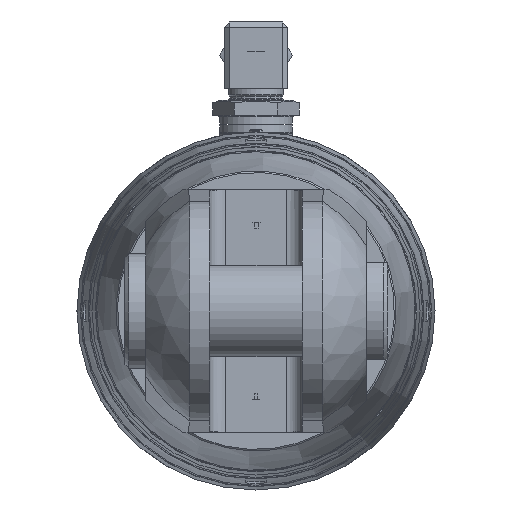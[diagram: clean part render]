
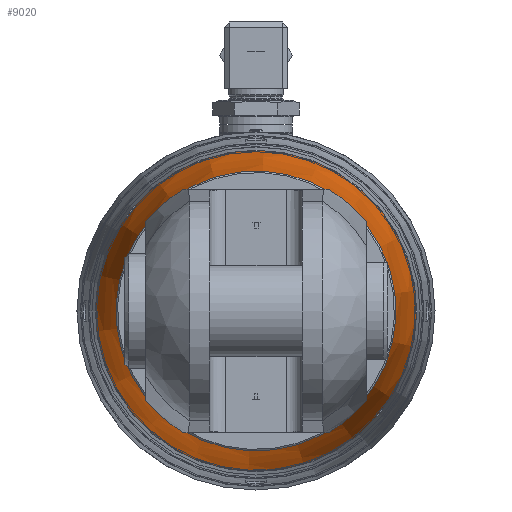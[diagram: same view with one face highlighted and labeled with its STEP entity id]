
A CAD part, left-side view. The second image highlights one B-rep face of the part: STEP entity #9020.
In plain terms, the highlighted conical face has half-angle 10 degrees and reference radius 57.22 mm.
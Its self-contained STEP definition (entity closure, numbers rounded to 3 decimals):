
#110=CONICAL_SURFACE('',#9855,57.22,0.175);
#977=LINE('',#15907,#1559);
#1559=VECTOR('',#11839,57.22);
#2673=FACE_OUTER_BOUND('',#3209,.T.);
#3209=EDGE_LOOP('',(#7721,#7722,#7723,#7724,#7725,#7726));
#3688=CIRCLE('',#9853,61.101);
#3689=CIRCLE('',#9854,61.101);
#3690=CIRCLE('',#9856,53.34);
#3691=CIRCLE('',#9857,53.34);
#4451=VERTEX_POINT('',#15897);
#4452=VERTEX_POINT('',#15898);
#4453=VERTEX_POINT('',#15903);
#4454=VERTEX_POINT('',#15904);
#5589=EDGE_CURVE('',#4451,#4452,#3688,.T.);
#5590=EDGE_CURVE('',#4452,#4451,#3689,.T.);
#5592=EDGE_CURVE('',#4453,#4454,#3690,.T.);
#5593=EDGE_CURVE('',#4454,#4453,#3691,.T.);
#5594=EDGE_CURVE('',#4454,#4452,#977,.T.);
#7721=ORIENTED_EDGE('',*,*,#5592,.F.);
#7722=ORIENTED_EDGE('',*,*,#5593,.F.);
#7723=ORIENTED_EDGE('',*,*,#5594,.T.);
#7724=ORIENTED_EDGE('',*,*,#5589,.F.);
#7725=ORIENTED_EDGE('',*,*,#5590,.F.);
#7726=ORIENTED_EDGE('',*,*,#5594,.F.);
#9020=ADVANCED_FACE('',(#2673),#110,.T.);
#9853=AXIS2_PLACEMENT_3D('',#15899,#11828,#11829);
#9854=AXIS2_PLACEMENT_3D('',#15900,#11830,#11831);
#9855=AXIS2_PLACEMENT_3D('',#15902,#11833,#11834);
#9856=AXIS2_PLACEMENT_3D('',#15905,#11835,#11836);
#9857=AXIS2_PLACEMENT_3D('',#15906,#11837,#11838);
#11828=DIRECTION('center_axis',(1.,0.,0.));
#11829=DIRECTION('ref_axis',(0.,0.605,0.796));
#11830=DIRECTION('center_axis',(1.,0.,0.));
#11831=DIRECTION('ref_axis',(0.,0.605,0.796));
#11833=DIRECTION('center_axis',(1.,0.,0.));
#11834=DIRECTION('ref_axis',(0.,-0.605,-0.796));
#11835=DIRECTION('center_axis',(-1.,0.,0.));
#11836=DIRECTION('ref_axis',(0.,0.605,0.796));
#11837=DIRECTION('center_axis',(-1.,0.,0.));
#11838=DIRECTION('ref_axis',(0.,0.605,0.796));
#11839=DIRECTION('',(0.985,0.105,0.138));
#15897=CARTESIAN_POINT('',(-1184.792,-36.987,-48.634));
#15898=CARTESIAN_POINT('',(-1184.792,36.987,48.634));
#15899=CARTESIAN_POINT('Origin',(-1184.792,0.,
0.));
#15900=CARTESIAN_POINT('Origin',(-1184.792,0.,
0.));
#15902=CARTESIAN_POINT('Origin',(-1206.8,0.,0.));
#15903=CARTESIAN_POINT('',(-1228.808,-32.289,-42.456));
#15904=CARTESIAN_POINT('',(-1228.808,32.289,42.456));
#15905=CARTESIAN_POINT('Origin',(-1228.808,0.,
0.));
#15906=CARTESIAN_POINT('Origin',(-1228.808,0.,
0.));
#15907=CARTESIAN_POINT('',(-1206.8,34.638,45.545));
